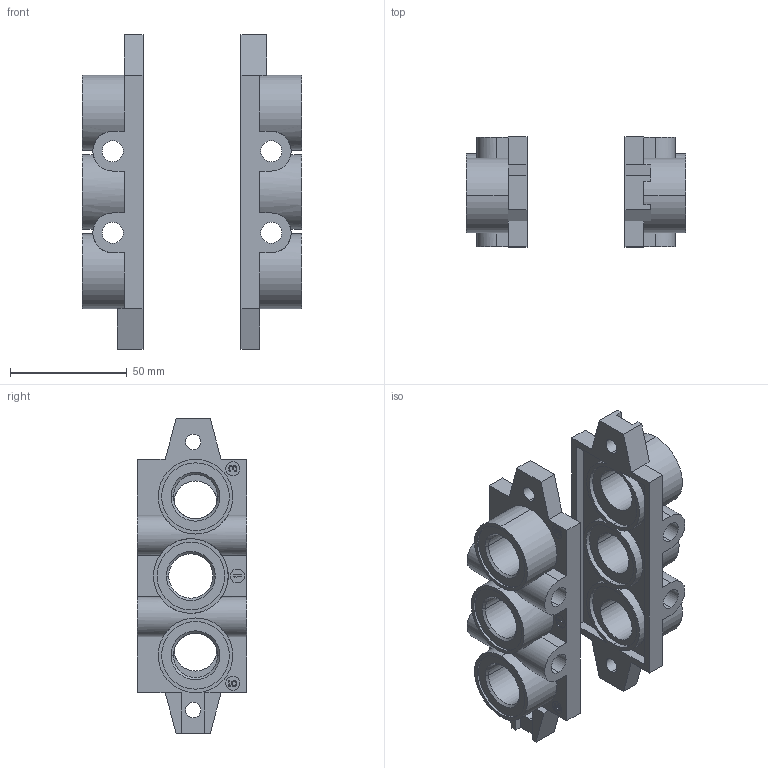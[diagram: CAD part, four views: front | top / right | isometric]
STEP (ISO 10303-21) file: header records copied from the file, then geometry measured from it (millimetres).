
FILE_DESCRIPTION((''),'2;1');
FILE_NAME('1825503148_ASM','2019-08-27T',('PDH2HC'),(''),'CREO PARAMETRIC BY PTC INC, 2016260','CREO PARAMETRIC BY PTC INC, 2016260','');
FILE_SCHEMA(('CONFIG_CONTROL_DESIGN'));
Length unit declared in the file: millimetre
Products named in the file (3): 1825503148-L; 1825503148-R; 1825503148_ASM
Assembly tree (2 placements, depth 2):
  1825503148_ASM
    1825503148-L
    1825503148-R
Bounding box: 94 x 47 x 135 mm (x, y, z)
Volume: 125189.2 mm3; surface area: 54270.2 mm2
Topology: 2 solids, 2 shells, 419 faces, 1150 edges, 760 vertices
Faces by surface type: plane 317, cylinder 90, cone 12
Entity records: 13925 total; most frequent: CARTESIAN_POINT 2950, ORIENTED_EDGE 2300, DIRECTION 2182, EDGE_CURVE 1150, VECTOR 934, LINE 934, VERTEX_POINT 760, AXIS2_PLACEMENT_3D 624
